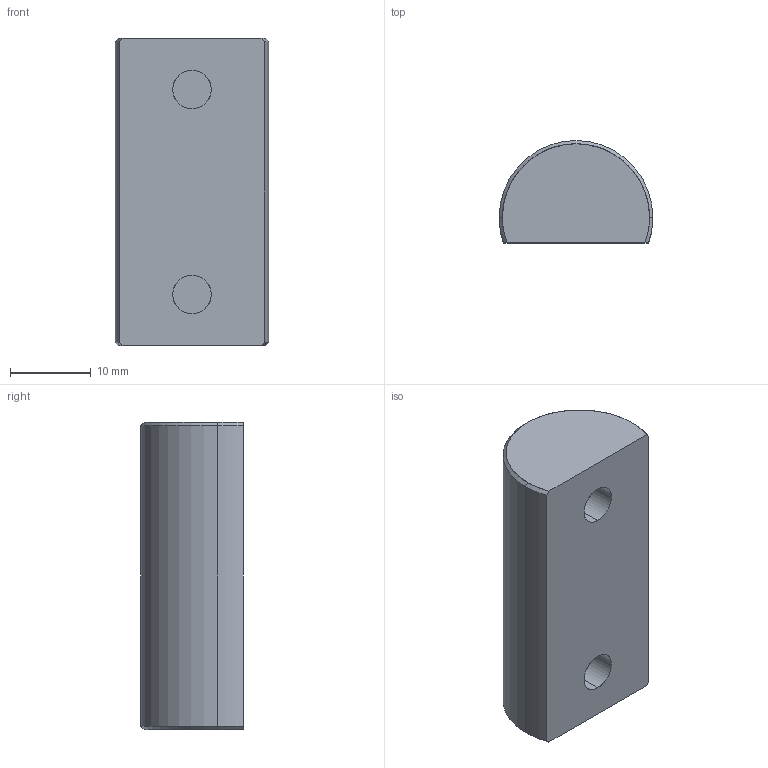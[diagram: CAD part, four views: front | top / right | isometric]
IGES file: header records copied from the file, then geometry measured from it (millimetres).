
Start section: SolidWorks IGES file using analytic representation for surfaces
Global section: file name: D:\Solid_parts\MECHeDESIGN\Bal-Tec\Catalog 105-A\Distribution\IGES\750-TC-BH.IGS; native system: SolidWorks 2005 by SolidWorks Corporation; preprocessor: SolidWorks 2005 by SolidWorks Corporation; author: rvillegas; date: 061205.190102; units: inch
Bounding box: 19.05 x 12.7 x 38.1 mm (x, y, z)
Surface area: 2599.4 mm2 (no closed solid volume)
Topology: 0 solids, 0 shells, 18 faces, 230 edges, 230 vertices
Faces by surface type: revolution 13, bspline 5
